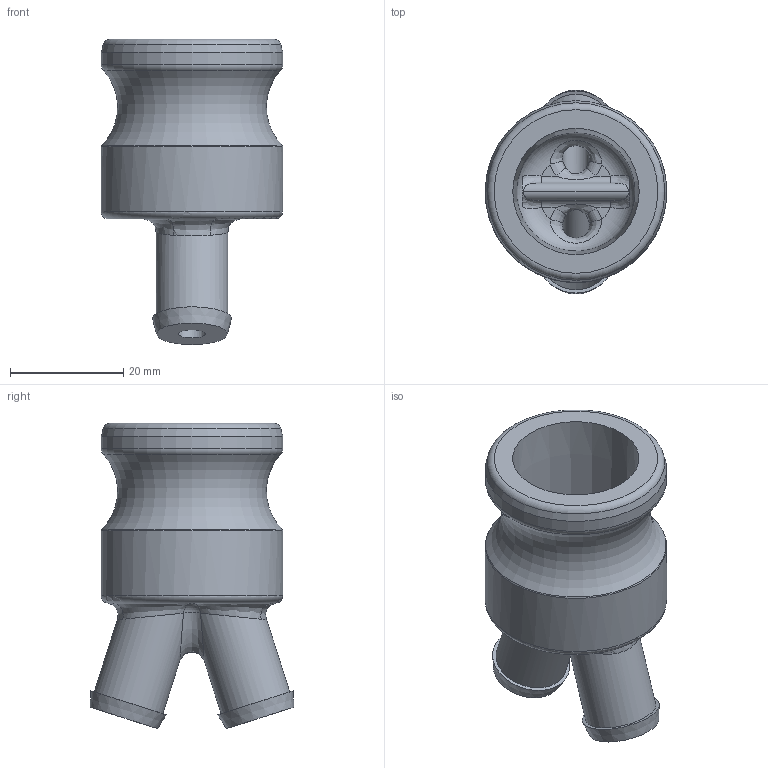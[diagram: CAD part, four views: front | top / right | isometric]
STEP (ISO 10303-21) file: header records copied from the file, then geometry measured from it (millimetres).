
FILE_DESCRIPTION(/* description */ ('Alibre Inc.'),/* implementation_level */ '2;1');
FILE_NAME(/* name */ 'export0',/* time_stamp */ '2017-02-19T14:04:10-05:00',/* author */ (''),/* organization */ (''),/* preprocessor_version */ 'ST-DEVELOPER v14',/* originating_system */ 'Alibre',/* authorisation */ '');
FILE_SCHEMA (('CONFIG_CONTROL_DESIGN'));
Length unit declared in the file: centimetre
Products named in the file (1): ID_1
Bounding box: 32.11 x 36.05 x 53.97 mm (x, y, z)
Volume: 16788.2 mm3; surface area: 8819.7 mm2
Topology: 1 solids, 1 shells, 55 faces, 132 edges, 78 vertices
Faces by surface type: bspline 19, plane 14, cylinder 10, torus 5, cone 5, sphere 2
Full cylindrical faces by diameter (mm): 4.763 x2, 12.7 x2, 32.106 x2
Entity records: 3904 total; most frequent: CARTESIAN_POINT 2778, ORIENTED_EDGE 216, DIRECTION 177, EDGE_CURVE 108, AXIS2_PLACEMENT_3D 92, EDGE_LOOP 76, FACE_BOUND 76, VERTEX_POINT 72
